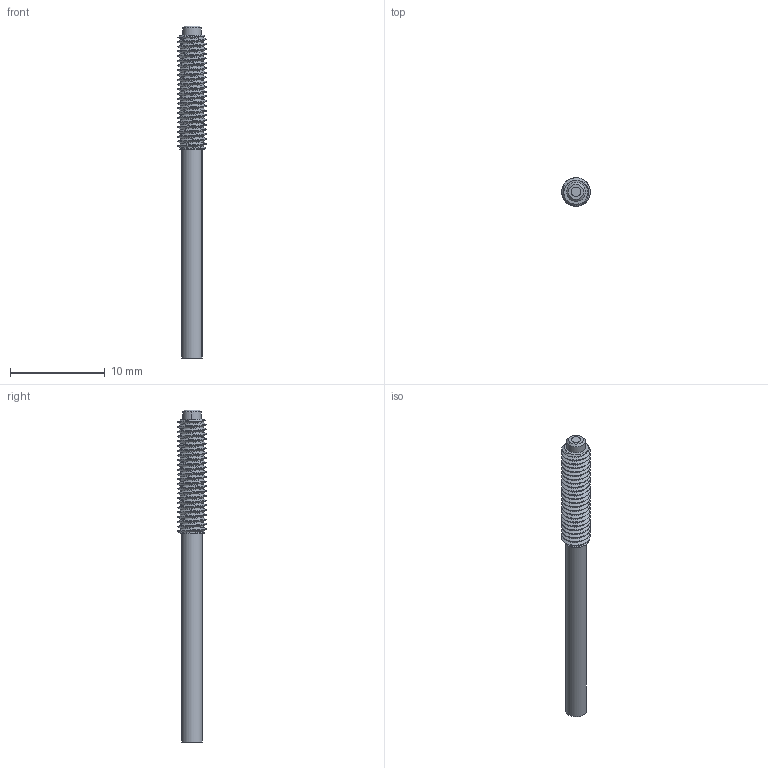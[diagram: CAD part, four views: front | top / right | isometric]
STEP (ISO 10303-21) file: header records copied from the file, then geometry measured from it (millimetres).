
FILE_DESCRIPTION (( 'STEP AP214' ), '1' );
FILE_NAME ('TM-31.STEP', '2025-09-26T01:58:24', ( 'Windows User' ), ( 'P R C' ), 'SwSTEP 2.0', 'SolidWorks 2023', '' );
FILE_SCHEMA (( 'AUTOMOTIVE_DESIGN' ));
Length unit declared in the file: millimetre
Products named in the file (4): SDxxxxx-TM-31壳体; 2.2光纤线; TM-31; 1.0光纤芯线
Assembly tree (3 placements, depth 2):
  TM-31
    SDxxxxx-TM-31壳体
    1.0光纤芯线
    2.2光纤线
Bounding box: 3 x 3 x 35 mm (x, y, z)
Volume: 140.2 mm3; surface area: 498.8 mm2
Topology: 3 solids, 3 shells, 80 faces, 212 edges, 139 vertices
Faces by surface type: cylinder 57, cone 12, plane 8, bspline 3
Entity records: 8189 total; most frequent: CARTESIAN_POINT 6335, ORIENTED_EDGE 424, DIRECTION 298, EDGE_CURVE 212, VERTEX_POINT 139, AXIS2_PLACEMENT_3D 116, EDGE_LOOP 83, ADVANCED_FACE 80
